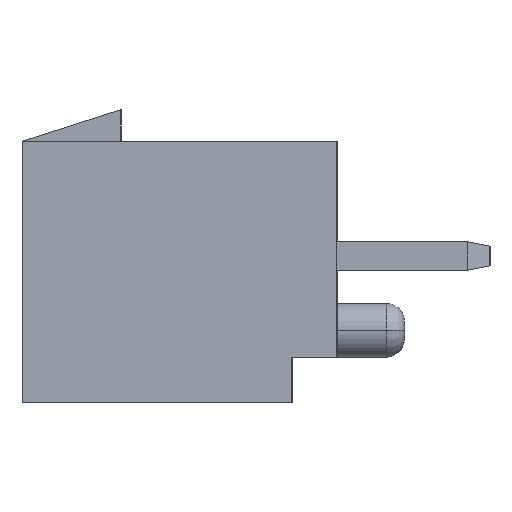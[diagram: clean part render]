
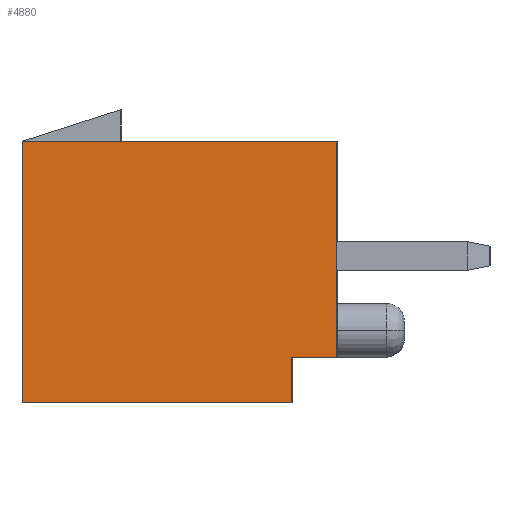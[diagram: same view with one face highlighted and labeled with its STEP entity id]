
A CAD part, left-side view. The second image highlights one B-rep face of the part: STEP entity #4880.
In plain terms, the highlighted planar face has unit normal (-1, 0, 0).
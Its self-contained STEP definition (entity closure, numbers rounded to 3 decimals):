
#2855=CARTESIAN_POINT('Vertex',(-18.75,7.,0.)) ;
#2858=CARTESIAN_POINT('Line Origine',(-18.75,7.,2.9)) ;
#2862=CARTESIAN_POINT('Vertex',(-18.75,7.,5.8)) ;
#3014=CARTESIAN_POINT('Line Origine',(-18.75,3.5,5.8)) ;
#3018=CARTESIAN_POINT('Vertex',(-18.75,0.,5.8)) ;
#4841=CARTESIAN_POINT('Axis2P3D Location',(-18.75,0.,0.)) ;
#4846=CARTESIAN_POINT('Line Origine',(-18.75,0.,3.4)) ;
#4850=CARTESIAN_POINT('Vertex',(-18.75,0.,1.)) ;
#4853=CARTESIAN_POINT('Line Origine',(-18.75,4.,0.)) ;
#4857=CARTESIAN_POINT('Vertex',(-18.75,1.,0.)) ;
#4860=CARTESIAN_POINT('Line Origine',(-18.75,1.,0.5)) ;
#4864=CARTESIAN_POINT('Vertex',(-18.75,1.,1.)) ;
#4867=CARTESIAN_POINT('Line Origine',(-18.75,0.5,1.)) ;
#2859=DIRECTION('Vector Direction',(0.,0.,1.)) ;
#3015=DIRECTION('Vector Direction',(0.,-1.,0.)) ;
#4842=DIRECTION('Axis2P3D Direction',(-1.,0.,0.)) ;
#4843=DIRECTION('Axis2P3D XDirection',(0.,0.,1.)) ;
#4847=DIRECTION('Vector Direction',(0.,0.,-1.)) ;
#4854=DIRECTION('Vector Direction',(0.,1.,0.)) ;
#4861=DIRECTION('Vector Direction',(0.,0.,-1.)) ;
#4868=DIRECTION('Vector Direction',(0.,1.,0.)) ;
#4844=AXIS2_PLACEMENT_3D('Plane Axis2P3D',#4841,#4842,#4843) ;
#4873=ORIENTED_EDGE('',*,*,#4852,.T.) ;
#4874=ORIENTED_EDGE('',*,*,#3020,.T.) ;
#4875=ORIENTED_EDGE('',*,*,#2864,.T.) ;
#4876=ORIENTED_EDGE('',*,*,#4859,.T.) ;
#4877=ORIENTED_EDGE('',*,*,#4866,.T.) ;
#4878=ORIENTED_EDGE('',*,*,#4871,.T.) ;
#2860=VECTOR('Line Direction',#2859,1.) ;
#3016=VECTOR('Line Direction',#3015,1.) ;
#4848=VECTOR('Line Direction',#4847,1.) ;
#4855=VECTOR('Line Direction',#4854,1.) ;
#4862=VECTOR('Line Direction',#4861,1.) ;
#4869=VECTOR('Line Direction',#4868,1.) ;
#4880=ADVANCED_FACE('\X2\96F64EF651E04F554F53\X0\',(#4879),#4845,.T.) ;
#2864=EDGE_CURVE('',#2863,#2856,#2861,.F.) ;
#3020=EDGE_CURVE('',#3019,#2863,#3017,.F.) ;
#4852=EDGE_CURVE('',#4851,#3019,#4849,.F.) ;
#4859=EDGE_CURVE('',#2856,#4858,#4856,.F.) ;
#4866=EDGE_CURVE('',#4858,#4865,#4863,.F.) ;
#4871=EDGE_CURVE('',#4865,#4851,#4870,.F.) ;
#4872=EDGE_LOOP('',(#4873,#4874,#4875,#4876,#4877,#4878)) ;
#4879=FACE_OUTER_BOUND('',#4872,.T.) ;
#2861=LINE('Line',#2858,#2860) ;
#3017=LINE('Line',#3014,#3016) ;
#4849=LINE('Line',#4846,#4848) ;
#4856=LINE('Line',#4853,#4855) ;
#4863=LINE('Line',#4860,#4862) ;
#4870=LINE('Line',#4867,#4869) ;
#4845=PLANE('Plane',#4844) ;
#2856=VERTEX_POINT('',#2855) ;
#2863=VERTEX_POINT('',#2862) ;
#3019=VERTEX_POINT('',#3018) ;
#4851=VERTEX_POINT('',#4850) ;
#4858=VERTEX_POINT('',#4857) ;
#4865=VERTEX_POINT('',#4864) ;
